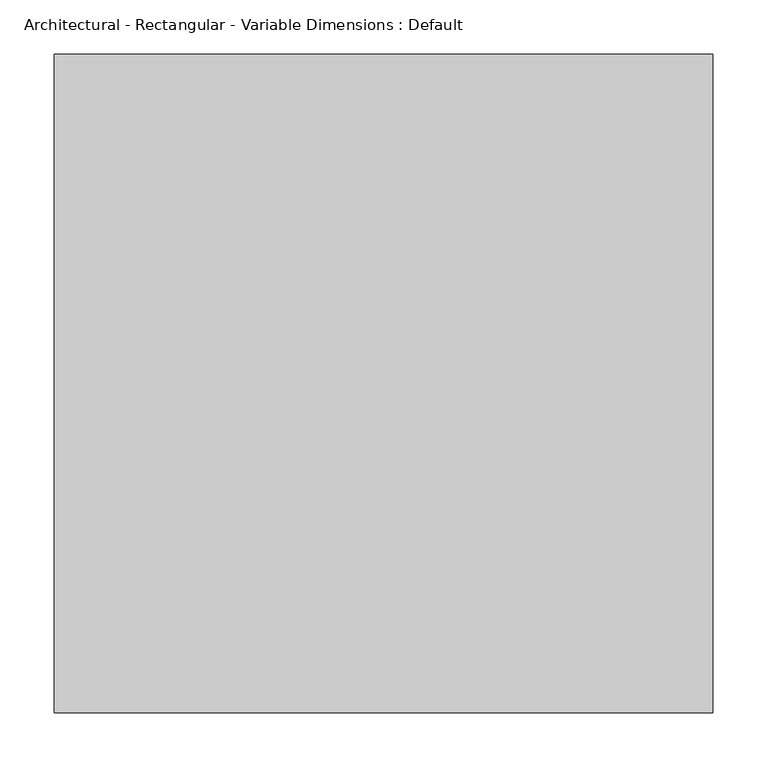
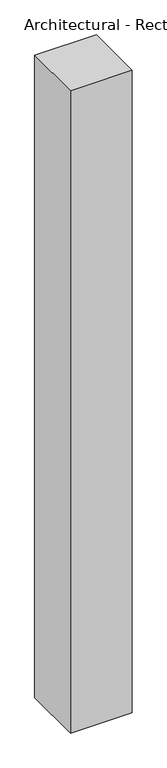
"""IFC4 building model written with IfcOpenShell, lengths in millimetres: column geometry, Architectural - Rectangular - Variable Dimensions : Default."""

from ifc_helpers import new_model, si_unit, frame, origin, place, context, project, spatial, polyline, outline, extrude, source, transform, mapped, element, save


def architectural_rectangular_variable_dimensions_default_6b935929(model_context):
    return source(origin(), model_context, "Body", "SweptSolid", [
        extrude(outline(polyline([(304.8, 3.476986), (304.8, -606.123014), (-304.8, -606.123014), (-304.8, 3.476986), (304.8, 3.476986)])), frame((0.0, 0.0, 17449.8), z_axis=(0.0, 0.0, 1.0), x_axis=(1.0, 0.0, 0.0)), (0.0, 0.0, 1.0), 6705.6),
    ])


if __name__ == "__main__":
    model = new_model("IFC4")
    model_context = context("Model", 3, world=origin())
    ifc_project = project(units=[si_unit("LENGTHUNIT", "METRE", prefix="MILLI")], contexts=[model_context])
    site = spatial("IfcSite", under=ifc_project)
    building = spatial("IfcBuilding", under=site)
    placement = place(None, origin())
    architectural_rectangular_variable_dimensions_default_shape = architectural_rectangular_variable_dimensions_default_6b935929(model_context)
    element("IfcColumn", 1, ObjectType="Architectural - Rectangular - Variable Dimensions : Default", at=placement, inside=building, context=model_context, shape_type="MappedRepresentation", body=[
        mapped(architectural_rectangular_variable_dimensions_default_shape, transform((0.0, 0.0, 0.0), x_axis=(1.0, 0.0, 0.0), y_axis=(0.0, 1.0, 0.0), z_axis=(0.0, 0.0, 1.0))),
    ])
    save(model, "model.ifc")
